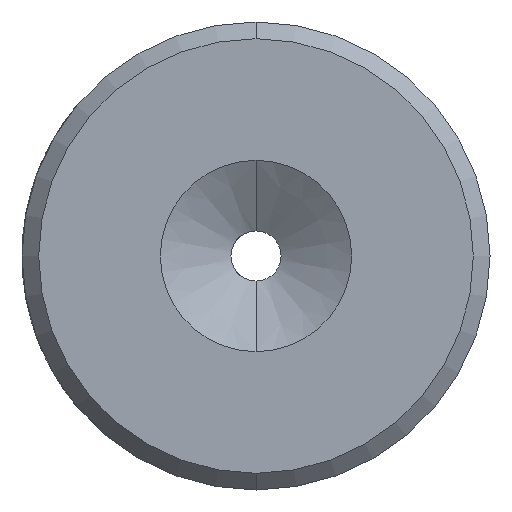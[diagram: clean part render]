
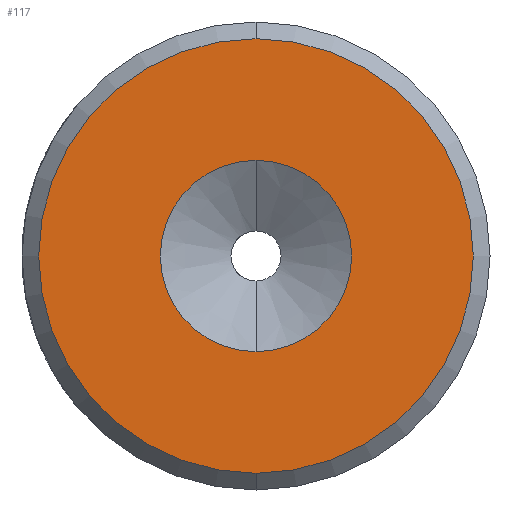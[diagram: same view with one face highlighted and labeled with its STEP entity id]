
A CAD part, front view. The second image highlights one B-rep face of the part: STEP entity #117.
In plain terms, the highlighted planar face has unit normal (0, -1, 0).
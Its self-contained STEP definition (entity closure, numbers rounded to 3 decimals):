
#6 = ORIENTED_EDGE ( 'NONE', *, *, #162, .T. ) ;
#12 = DIRECTION ( 'NONE',  ( 0., 0., -1. ) ) ;
#90 = DIRECTION ( 'NONE',  ( 0., -1., 0. ) ) ;
#91 = AXIS2_PLACEMENT_3D ( 'NONE', #512, #804, #204 ) ;
#117 = ADVANCED_FACE ( 'NONE', ( #865, #262 ), #698, .T. ) ;
#139 = CIRCLE ( 'NONE', #202, 13. ) ;
#162 = EDGE_CURVE ( 'NONE', #878, #814, #139, .T. ) ;
#166 = CARTESIAN_POINT ( 'NONE',  ( 0., 0., 0. ) ) ;
#202 = AXIS2_PLACEMENT_3D ( 'NONE', #862, #255, #868 ) ;
#204 = DIRECTION ( 'NONE',  ( 0., 0., -1. ) ) ;
#210 = ORIENTED_EDGE ( 'NONE', *, *, #774, .T. ) ;
#214 = CARTESIAN_POINT ( 'NONE',  ( 0., 0., 0. ) ) ;
#219 = CARTESIAN_POINT ( 'NONE',  ( 0., 0., 13. ) ) ;
#255 = DIRECTION ( 'NONE',  ( 0., -1., 0. ) ) ;
#262 = FACE_OUTER_BOUND ( 'NONE', #410, .T. ) ;
#288 = AXIS2_PLACEMENT_3D ( 'NONE', #214, #520, #898 ) ;
#361 = CARTESIAN_POINT ( 'NONE',  ( 0., 0., 5.722 ) ) ;
#376 = VERTEX_POINT ( 'NONE', #494 ) ;
#410 = EDGE_LOOP ( 'NONE', ( #6, #210 ) ) ;
#428 = CARTESIAN_POINT ( 'NONE',  ( 0., 0., -13. ) ) ;
#473 = DIRECTION ( 'NONE',  ( 0., 0., -1. ) ) ;
#494 = CARTESIAN_POINT ( 'NONE',  ( 0., 0., -5.722 ) ) ;
#500 = VERTEX_POINT ( 'NONE', #361 ) ;
#510 = CIRCLE ( 'NONE', #288, 5.722 ) ;
#512 = CARTESIAN_POINT ( 'NONE',  ( 0., 0., 0. ) ) ;
#520 = DIRECTION ( 'NONE',  ( 0., -1., 0. ) ) ;
#546 = CIRCLE ( 'NONE', #647, 5.722 ) ;
#553 = DIRECTION ( 'NONE',  ( 0., -1., 0. ) ) ;
#647 = AXIS2_PLACEMENT_3D ( 'NONE', #777, #90, #473 ) ;
#698 = PLANE ( 'NONE',  #827 ) ;
#706 = ORIENTED_EDGE ( 'NONE', *, *, #836, .F. ) ;
#774 = EDGE_CURVE ( 'NONE', #814, #878, #934, .T. ) ;
#777 = CARTESIAN_POINT ( 'NONE',  ( 0., 0., 0. ) ) ;
#804 = DIRECTION ( 'NONE',  ( 0., -1., 0. ) ) ;
#814 = VERTEX_POINT ( 'NONE', #428 ) ;
#827 = AXIS2_PLACEMENT_3D ( 'NONE', #166, #553, #12 ) ;
#836 = EDGE_CURVE ( 'NONE', #500, #376, #510, .T. ) ;
#862 = CARTESIAN_POINT ( 'NONE',  ( 0., 0., 0. ) ) ;
#865 = FACE_BOUND ( 'NONE', #880, .T. ) ;
#868 = DIRECTION ( 'NONE',  ( 0., 0., -1. ) ) ;
#878 = VERTEX_POINT ( 'NONE', #219 ) ;
#880 = EDGE_LOOP ( 'NONE', ( #947, #706 ) ) ;
#898 = DIRECTION ( 'NONE',  ( 0., 0., -1. ) ) ;
#934 = CIRCLE ( 'NONE', #91, 13. ) ;
#942 = EDGE_CURVE ( 'NONE', #376, #500, #546, .T. ) ;
#947 = ORIENTED_EDGE ( 'NONE', *, *, #942, .F. ) ;
